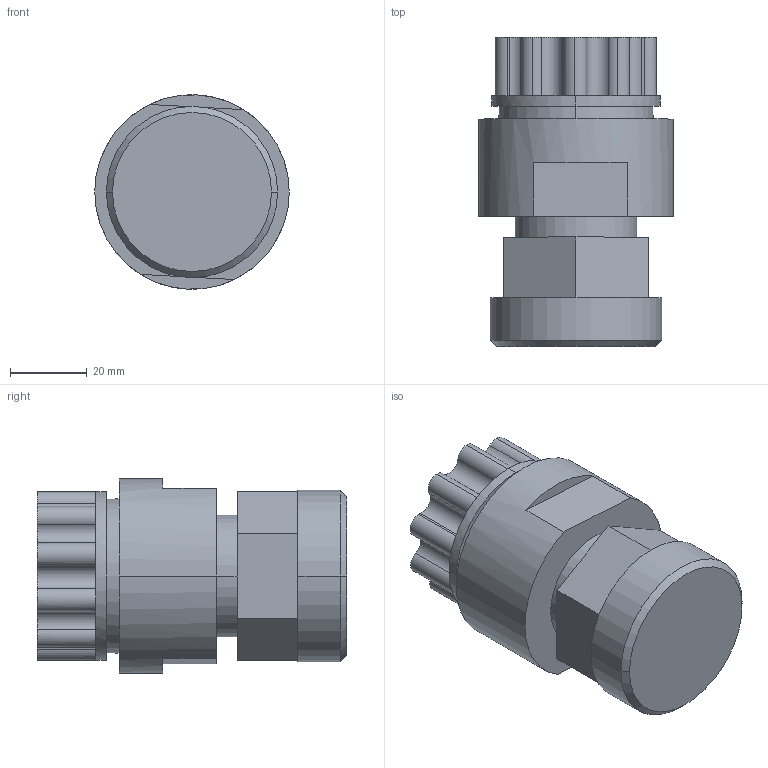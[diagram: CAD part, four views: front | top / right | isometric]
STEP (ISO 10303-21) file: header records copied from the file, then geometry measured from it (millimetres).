
FILE_DESCRIPTION (( 'STEP AP214' ), '1' );
FILE_NAME ('16-synchro-flare-with-top-mount-adapter.STEP', '2012-11-27T20:39:23', ( '' ), ( '' ), 'SwSTEP 2.0', 'SolidWorks 2012', '' );
FILE_SCHEMA (( 'AUTOMOTIVE_DESIGN' ));
Length unit declared in the file: inch
Products named in the file (1): 16-synchro-flare-with-top-mount-adapter
Bounding box: 50.8 x 80.72 x 50.8 mm (x, y, z)
Volume: 114536.1 mm3; surface area: 18769.2 mm2
Topology: 1 solids, 1 shells, 71 faces, 177 edges, 114 vertices
Faces by surface type: cylinder 39, plane 28, cone 4
Entity records: 2242 total; most frequent: DIRECTION 429, CARTESIAN_POINT 363, ORIENTED_EDGE 354, AXIS2_PLACEMENT_3D 180, EDGE_CURVE 177, VERTEX_POINT 114, CIRCLE 108, EDGE_LOOP 77
